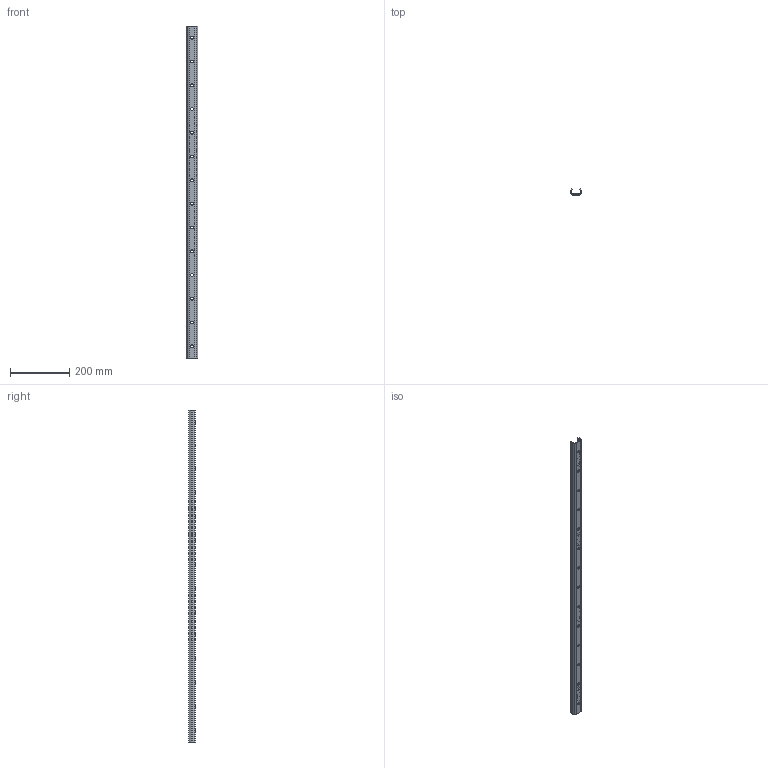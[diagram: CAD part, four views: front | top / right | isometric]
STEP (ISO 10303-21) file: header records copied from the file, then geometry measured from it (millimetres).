
FILE_DESCRIPTION(('STEP AP214'),'1');
FILE_NAME('rail_tex40-1120.stp','2019-03-08T08:33:00',('TraceParts'),('TraceParts S.A.'),'Spatial InterOp 3D',' ',' ');
FILE_SCHEMA(('automotive_design'));
Length unit declared in the file: millimetre
Products named in the file (1): rail_tex40-1120
Bounding box: 39.53 x 21 x 1120 mm (x, y, z)
Volume: 218964.2 mm3; surface area: 154489.1 mm2
Topology: 1 solids, 1 shells, 282 faces, 732 edges, 488 vertices
Faces by surface type: plane 198, bspline 44, cylinder 40
Entity records: 17613 total; most frequent: CARTESIAN_POINT 8571, ORIENTED_EDGE 1464, DIRECTION 1202, EDGE_CURVE 732, LINE 564, VECTOR 564, VERTEX_POINT 488, EDGE_LOOP 346
